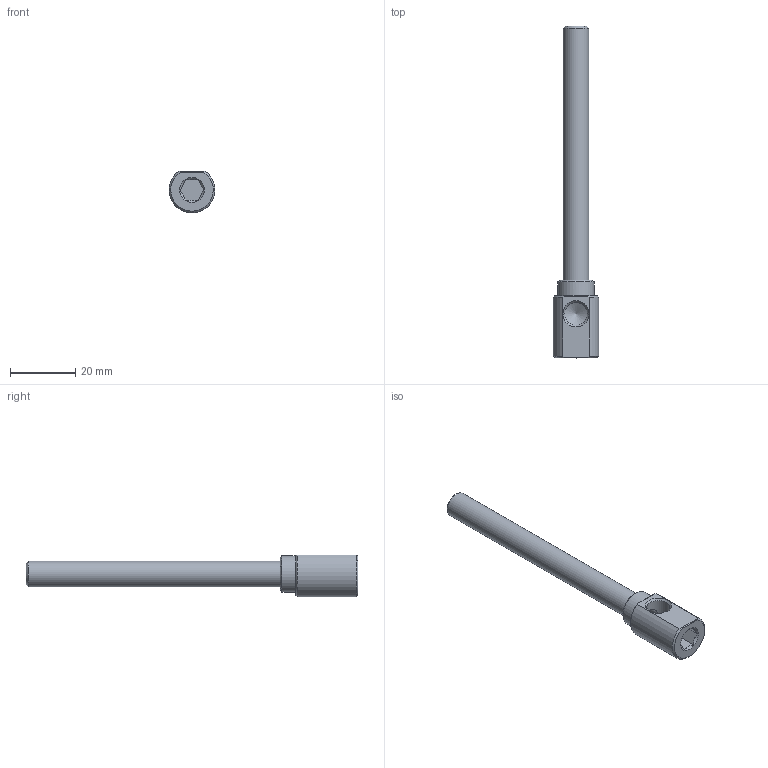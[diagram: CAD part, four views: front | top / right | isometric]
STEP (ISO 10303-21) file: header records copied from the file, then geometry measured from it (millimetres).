
FILE_DESCRIPTION(/* description */ (''),/* implementation_level */ '2;1');
FILE_NAME(/* name */ 'C:/Users/drich/Desktop/EKL16 X 4 v2.step',/* time_stamp */ '2019-11-18T14:36:17-06:00',/* author */ (''),/* organization */ (''),/* preprocessor_version */ 'ST-DEVELOPER v18',/* originating_system */ 'Autodesk Translation Framework v8.12.0.6',/* authorisation */ '');
FILE_SCHEMA (('AUTOMOTIVE_DESIGN { 1 0 10303 214 3 1 1 }'));
Length unit declared in the file: inch
Products named in the file (2): EKL16 X 4; EKL16 X 4_1
Assembly tree (1 placements, depth 2):
  EKL16 X 4
    EKL16 X 4_1
Bounding box: 13.97 x 101.6 x 12.7 mm (x, y, z)
Volume: 4775.7 mm3; surface area: 4798.3 mm2
Topology: 1 solids, 1 shells, 29 faces, 78 edges, 54 vertices
Faces by surface type: plane 15, cone 8, cylinder 6
Full cylindrical faces by diameter (mm): 4.75 x1, 7.023 x1, 7.62 x1, 7.828 x1, 11.1 x1
Entity records: 996 total; most frequent: CARTESIAN_POINT 237, ORIENTED_EDGE 154, DIRECTION 144, EDGE_CURVE 77, AXIS2_PLACEMENT_3D 57, VERTEX_POINT 54, EDGE_LOOP 35, LINE 30
